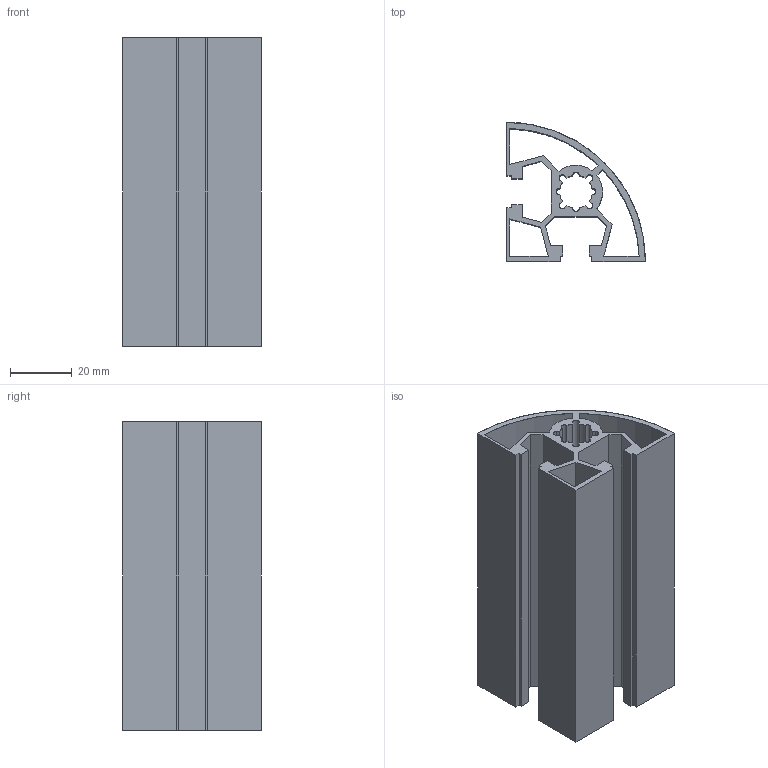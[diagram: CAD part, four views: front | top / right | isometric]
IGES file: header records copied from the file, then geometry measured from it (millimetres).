
Start section: SolidWorks IGES file using analytic representation for surfaces
Global section: file name: C:\Documents and Settings\URETIM3\Desktop\yeni katalog tolgay düzenli\C kataloðu\45-45 köþe baðlantýlý eloksallý sigma alüminyum profil\765 k45 045.IGS; native system: SolidWorks 2006 by SolidWorks Corporation; preprocessor: SolidWorks 2006 by SolidWorks Corporation; author: URETIM3; date: 060912.102143; units: millimetre
Bounding box: 45 x 45 x 100 mm (x, y, z)
Surface area: 50905.1 mm2 (no closed solid volume)
Topology: 0 solids, 0 shells, 80 faces, 788 edges, 788 vertices
Faces by surface type: bspline 52, revolution 28
